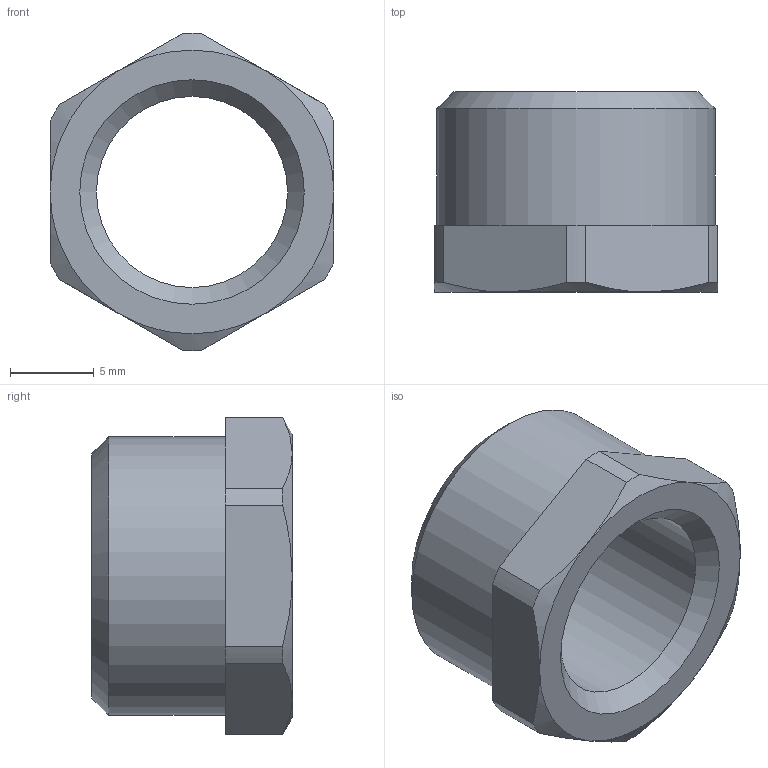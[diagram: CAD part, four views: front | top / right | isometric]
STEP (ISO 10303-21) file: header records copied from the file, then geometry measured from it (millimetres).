
FILE_DESCRIPTION(('STEP AP203'), '1');
FILE_NAME('ÂÐ.753128.026 - VTr.581.N.0302 Ôèò. ðåçüá', '2024-07-04T07:19:15', ('Boss'), (''), 'C3D Converter', 'C3D Toolkit', '');
FILE_SCHEMA(('CONFIG_CONTROL_DESIGN'));
Length unit declared in the file: millimetre
Products named in the file (1): ВР.753128.026
Bounding box: 17 x 12 x 19 mm (x, y, z)
Volume: 1438.9 mm3; surface area: 1292.1 mm2
Topology: 1 solids, 1 shells, 26 faces, 60 edges, 37 vertices
Faces by surface type: plane 9, cone 9, cylinder 8
Full cylindrical faces by diameter (mm): 11.445 x1, 16.662 x1
Entity records: 982 total; most frequent: CARTESIAN_POINT 378, DIRECTION 122, ORIENTED_EDGE 110, EDGE_CURVE 55, AXIS2_PLACEMENT_3D 52, VERTEX_POINT 37, EDGE_LOOP 34, ADVANCED_FACE 26
